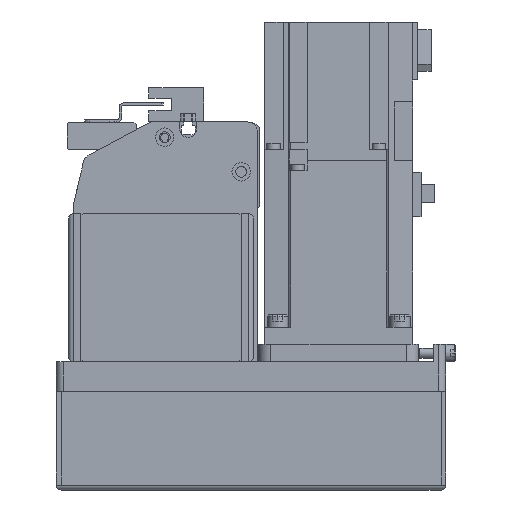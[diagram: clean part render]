
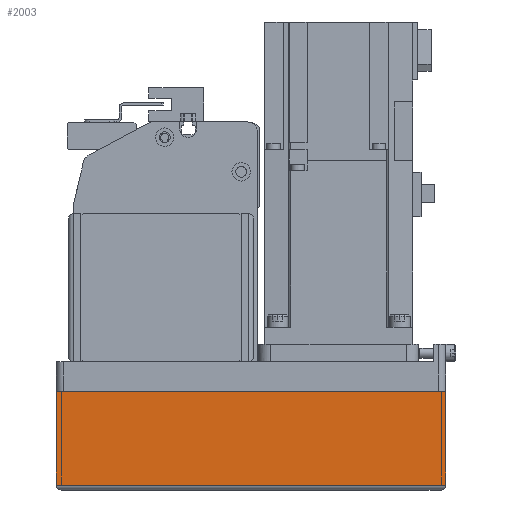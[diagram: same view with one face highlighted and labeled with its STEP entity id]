
A CAD part, left-side view. The second image highlights one B-rep face of the part: STEP entity #2003.
In plain terms, the highlighted planar face has unit normal (-1, 0, 0) as drawn and (0, 1, 0) by its records, which use the part's own axes.
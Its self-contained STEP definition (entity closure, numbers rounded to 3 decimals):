
#2003 = ADVANCED_FACE( '', ( #4550 ), #4551, .T. );
#4550 = FACE_OUTER_BOUND( '', #7733, .T. );
#4551 = PLANE( '', #7734 );
#7733 = EDGE_LOOP( '', ( #13380, #13381, #13382, #13383 ) );
#7734 = AXIS2_PLACEMENT_3D( '', #13384, #13385, #13386 );
#13380 = ORIENTED_EDGE( '', *, *, #19365, .F. );
#13381 = ORIENTED_EDGE( '', *, *, #19895, .F. );
#13382 = ORIENTED_EDGE( '', *, *, #18402, .T. );
#13383 = ORIENTED_EDGE( '', *, *, #20172, .T. );
#13384 = CARTESIAN_POINT( '', ( -158., 39., -50. ) );
#13385 = DIRECTION( '', ( 0., 1., 0. ) );
#13386 = DIRECTION( '', ( 0., 0., 1. ) );
#18402 = EDGE_CURVE( '', #22004, #22001, #22005, .T. );
#19365 = EDGE_CURVE( '', #22331, #22706, #23623, .T. );
#19895 = EDGE_CURVE( '', #22004, #22331, #24448, .T. );
#20172 = EDGE_CURVE( '', #22001, #22706, #24834, .T. );
#22001 = VERTEX_POINT( '', #27242 );
#22004 = VERTEX_POINT( '', #27246 );
#22005 = LINE( '', #27247, #27248 );
#22331 = VERTEX_POINT( '', #27749 );
#22706 = VERTEX_POINT( '', #28277 );
#23623 = LINE( '', #29647, #29648 );
#24448 = LINE( '', #30872, #30873 );
#24834 = LINE( '', #31422, #31423 );
#27242 = CARTESIAN_POINT( '', ( -158., 39., -12.1 ) );
#27246 = CARTESIAN_POINT( '', ( -158., 39., -50. ) );
#27247 = CARTESIAN_POINT( '', ( -158., 39., -50. ) );
#27248 = VECTOR( '', #34131, 1000. );
#27749 = CARTESIAN_POINT( '', ( 0., 39., -50. ) );
#28277 = CARTESIAN_POINT( '', ( 0., 39., -12.1 ) );
#29647 = CARTESIAN_POINT( '', ( 0., 39., -50. ) );
#29648 = VECTOR( '', #35281, 1000. );
#30872 = CARTESIAN_POINT( '', ( -158., 39., -50. ) );
#30873 = VECTOR( '', #35964, 1000. );
#31422 = CARTESIAN_POINT( '', ( -158., 39., -12.1 ) );
#31423 = VECTOR( '', #36297, 1000. );
#34131 = DIRECTION( '', ( 0., 0., 1. ) );
#35281 = DIRECTION( '', ( 0., 0., 1. ) );
#35964 = DIRECTION( '', ( 1., 0., 0. ) );
#36297 = DIRECTION( '', ( 1., 0., 0. ) );
